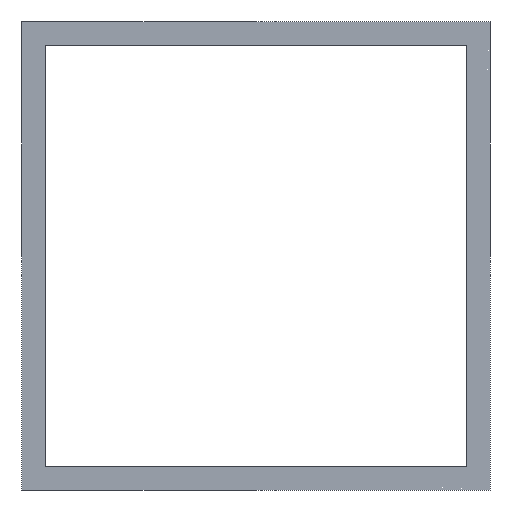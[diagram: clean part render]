
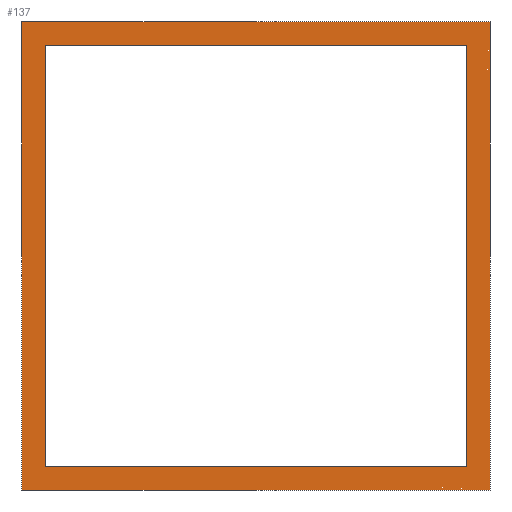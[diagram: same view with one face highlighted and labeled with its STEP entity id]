
A CAD part, front view. The second image highlights one B-rep face of the part: STEP entity #137.
In plain terms, the highlighted planar face has unit normal (0, -1, 0).
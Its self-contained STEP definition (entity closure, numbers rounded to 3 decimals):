
#21 = EDGE_CURVE('',#22,#24,#26,.T.);
#22 = VERTEX_POINT('',#23);
#23 = CARTESIAN_POINT('',(-100.,-680.,950.));
#24 = VERTEX_POINT('',#25);
#25 = CARTESIAN_POINT('',(-100.,-680.,1150.));
#26 = SURFACE_CURVE('',#27,(#31,#43),.PCURVE_S1.);
#27 = LINE('',#28,#29);
#28 = CARTESIAN_POINT('',(-100.,-680.,950.));
#29 = VECTOR('',#30,1.);
#30 = DIRECTION('',(0.,0.,1.));
#31 = PCURVE('',#32,#37);
#32 = PLANE('',#33);
#33 = AXIS2_PLACEMENT_3D('',#34,#35,#36);
#34 = CARTESIAN_POINT('',(-100.,-680.,950.));
#35 = DIRECTION('',(1.,0.,0.));
#36 = DIRECTION('',(0.,0.,1.));
#37 = DEFINITIONAL_REPRESENTATION('',(#38),#42);
#38 = LINE('',#39,#40);
#39 = CARTESIAN_POINT('',(0.,0.));
#40 = VECTOR('',#41,1.);
#41 = DIRECTION('',(1.,0.));
#42 = ( GEOMETRIC_REPRESENTATION_CONTEXT(2) 
PARAMETRIC_REPRESENTATION_CONTEXT() REPRESENTATION_CONTEXT('2D SPACE',''
  ) );
#43 = PCURVE('',#44,#49);
#44 = PLANE('',#45);
#45 = AXIS2_PLACEMENT_3D('',#46,#47,#48);
#46 = CARTESIAN_POINT('',(-100.,-680.,950.));
#47 = DIRECTION('',(0.,1.,0.));
#48 = DIRECTION('',(0.,0.,1.));
#49 = DEFINITIONAL_REPRESENTATION('',(#50),#54);
#50 = LINE('',#51,#52);
#51 = CARTESIAN_POINT('',(0.,0.));
#52 = VECTOR('',#53,1.);
#53 = DIRECTION('',(1.,0.));
#54 = ( GEOMETRIC_REPRESENTATION_CONTEXT(2) 
PARAMETRIC_REPRESENTATION_CONTEXT() REPRESENTATION_CONTEXT('2D SPACE',''
  ) );
#72 = PLANE('',#73);
#73 = AXIS2_PLACEMENT_3D('',#74,#75,#76);
#74 = CARTESIAN_POINT('',(-100.,-680.,950.));
#75 = DIRECTION('',(0.,0.,1.));
#76 = DIRECTION('',(1.,0.,0.));
#126 = PLANE('',#127);
#127 = AXIS2_PLACEMENT_3D('',#128,#129,#130);
#128 = CARTESIAN_POINT('',(-100.,-680.,1150.));
#129 = DIRECTION('',(0.,0.,1.));
#130 = DIRECTION('',(1.,0.,0.));
#137 = ADVANCED_FACE('',(#138,#213),#44,.F.);
#138 = FACE_BOUND('',#139,.F.);
#139 = EDGE_LOOP('',(#140,#163,#164,#187));
#140 = ORIENTED_EDGE('',*,*,#141,.F.);
#141 = EDGE_CURVE('',#22,#142,#144,.T.);
#142 = VERTEX_POINT('',#143);
#143 = CARTESIAN_POINT('',(100.,-680.,950.));
#144 = SURFACE_CURVE('',#145,(#149,#156),.PCURVE_S1.);
#145 = LINE('',#146,#147);
#146 = CARTESIAN_POINT('',(-100.,-680.,950.));
#147 = VECTOR('',#148,1.);
#148 = DIRECTION('',(1.,0.,0.));
#149 = PCURVE('',#44,#150);
#150 = DEFINITIONAL_REPRESENTATION('',(#151),#155);
#151 = LINE('',#152,#153);
#152 = CARTESIAN_POINT('',(0.,0.));
#153 = VECTOR('',#154,1.);
#154 = DIRECTION('',(0.,1.));
#155 = ( GEOMETRIC_REPRESENTATION_CONTEXT(2) 
PARAMETRIC_REPRESENTATION_CONTEXT() REPRESENTATION_CONTEXT('2D SPACE',''
  ) );
#156 = PCURVE('',#72,#157);
#157 = DEFINITIONAL_REPRESENTATION('',(#158),#162);
#158 = LINE('',#159,#160);
#159 = CARTESIAN_POINT('',(0.,0.));
#160 = VECTOR('',#161,1.);
#161 = DIRECTION('',(1.,0.));
#162 = ( GEOMETRIC_REPRESENTATION_CONTEXT(2) 
PARAMETRIC_REPRESENTATION_CONTEXT() REPRESENTATION_CONTEXT('2D SPACE',''
  ) );
#163 = ORIENTED_EDGE('',*,*,#21,.T.);
#164 = ORIENTED_EDGE('',*,*,#165,.T.);
#165 = EDGE_CURVE('',#24,#166,#168,.T.);
#166 = VERTEX_POINT('',#167);
#167 = CARTESIAN_POINT('',(100.,-680.,1150.));
#168 = SURFACE_CURVE('',#169,(#173,#180),.PCURVE_S1.);
#169 = LINE('',#170,#171);
#170 = CARTESIAN_POINT('',(-100.,-680.,1150.));
#171 = VECTOR('',#172,1.);
#172 = DIRECTION('',(1.,0.,0.));
#173 = PCURVE('',#44,#174);
#174 = DEFINITIONAL_REPRESENTATION('',(#175),#179);
#175 = LINE('',#176,#177);
#176 = CARTESIAN_POINT('',(200.,0.));
#177 = VECTOR('',#178,1.);
#178 = DIRECTION('',(0.,1.));
#179 = ( GEOMETRIC_REPRESENTATION_CONTEXT(2) 
PARAMETRIC_REPRESENTATION_CONTEXT() REPRESENTATION_CONTEXT('2D SPACE',''
  ) );
#180 = PCURVE('',#126,#181);
#181 = DEFINITIONAL_REPRESENTATION('',(#182),#186);
#182 = LINE('',#183,#184);
#183 = CARTESIAN_POINT('',(0.,0.));
#184 = VECTOR('',#185,1.);
#185 = DIRECTION('',(1.,0.));
#186 = ( GEOMETRIC_REPRESENTATION_CONTEXT(2) 
PARAMETRIC_REPRESENTATION_CONTEXT() REPRESENTATION_CONTEXT('2D SPACE',''
  ) );
#187 = ORIENTED_EDGE('',*,*,#188,.F.);
#188 = EDGE_CURVE('',#142,#166,#189,.T.);
#189 = SURFACE_CURVE('',#190,(#194,#201),.PCURVE_S1.);
#190 = LINE('',#191,#192);
#191 = CARTESIAN_POINT('',(100.,-680.,950.));
#192 = VECTOR('',#193,1.);
#193 = DIRECTION('',(0.,0.,1.));
#194 = PCURVE('',#44,#195);
#195 = DEFINITIONAL_REPRESENTATION('',(#196),#200);
#196 = LINE('',#197,#198);
#197 = CARTESIAN_POINT('',(0.,200.));
#198 = VECTOR('',#199,1.);
#199 = DIRECTION('',(1.,0.));
#200 = ( GEOMETRIC_REPRESENTATION_CONTEXT(2) 
PARAMETRIC_REPRESENTATION_CONTEXT() REPRESENTATION_CONTEXT('2D SPACE',''
  ) );
#201 = PCURVE('',#202,#207);
#202 = PLANE('',#203);
#203 = AXIS2_PLACEMENT_3D('',#204,#205,#206);
#204 = CARTESIAN_POINT('',(100.,-680.,950.));
#205 = DIRECTION('',(1.,0.,0.));
#206 = DIRECTION('',(0.,0.,1.));
#207 = DEFINITIONAL_REPRESENTATION('',(#208),#212);
#208 = LINE('',#209,#210);
#209 = CARTESIAN_POINT('',(0.,0.));
#210 = VECTOR('',#211,1.);
#211 = DIRECTION('',(1.,0.));
#212 = ( GEOMETRIC_REPRESENTATION_CONTEXT(2) 
PARAMETRIC_REPRESENTATION_CONTEXT() REPRESENTATION_CONTEXT('2D SPACE',''
  ) );
#213 = FACE_BOUND('',#214,.F.);
#214 = EDGE_LOOP('',(#215,#243,#269,#295));
#215 = ORIENTED_EDGE('',*,*,#216,.F.);
#216 = EDGE_CURVE('',#217,#219,#221,.T.);
#217 = VERTEX_POINT('',#218);
#218 = CARTESIAN_POINT('',(-90.,-680.,1140.));
#219 = VERTEX_POINT('',#220);
#220 = CARTESIAN_POINT('',(90.,-680.,1140.));
#221 = SURFACE_CURVE('',#222,(#226,#232),.PCURVE_S1.);
#222 = LINE('',#223,#224);
#223 = CARTESIAN_POINT('',(-95.,-680.,1140.));
#224 = VECTOR('',#225,1.);
#225 = DIRECTION('',(1.,0.,0.));
#226 = PCURVE('',#44,#227);
#227 = DEFINITIONAL_REPRESENTATION('',(#228),#231);
#228 = B_SPLINE_CURVE_WITH_KNOTS('',1,(#229,#230),.UNSPECIFIED.,.F.,.F.,
  (2,2),(5.,185.),.PIECEWISE_BEZIER_KNOTS.);
#229 = CARTESIAN_POINT('',(190.,10.));
#230 = CARTESIAN_POINT('',(190.,190.));
#231 = ( GEOMETRIC_REPRESENTATION_CONTEXT(2) 
PARAMETRIC_REPRESENTATION_CONTEXT() REPRESENTATION_CONTEXT('2D SPACE',''
  ) );
#232 = PCURVE('',#233,#238);
#233 = PLANE('',#234);
#234 = AXIS2_PLACEMENT_3D('',#235,#236,#237);
#235 = CARTESIAN_POINT('',(-90.,-681.,1140.));
#236 = DIRECTION('',(0.,0.,1.));
#237 = DIRECTION('',(1.,0.,0.));
#238 = DEFINITIONAL_REPRESENTATION('',(#239),#242);
#239 = B_SPLINE_CURVE_WITH_KNOTS('',1,(#240,#241),.UNSPECIFIED.,.F.,.F.,
  (2,2),(5.,185.),.PIECEWISE_BEZIER_KNOTS.);
#240 = CARTESIAN_POINT('',(0.,1.));
#241 = CARTESIAN_POINT('',(180.,1.));
#242 = ( GEOMETRIC_REPRESENTATION_CONTEXT(2) 
PARAMETRIC_REPRESENTATION_CONTEXT() REPRESENTATION_CONTEXT('2D SPACE',''
  ) );
#243 = ORIENTED_EDGE('',*,*,#244,.T.);
#244 = EDGE_CURVE('',#217,#245,#247,.T.);
#245 = VERTEX_POINT('',#246);
#246 = CARTESIAN_POINT('',(-90.,-680.,960.));
#247 = SURFACE_CURVE('',#248,(#252,#258),.PCURVE_S1.);
#248 = LINE('',#249,#250);
#249 = CARTESIAN_POINT('',(-90.,-680.,955.));
#250 = VECTOR('',#251,1.);
#251 = DIRECTION('',(0.,0.,-1.));
#252 = PCURVE('',#44,#253);
#253 = DEFINITIONAL_REPRESENTATION('',(#254),#257);
#254 = B_SPLINE_CURVE_WITH_KNOTS('',1,(#255,#256),.UNSPECIFIED.,.F.,.F.,
  (2,2),(-185.,-5.),.PIECEWISE_BEZIER_KNOTS.);
#255 = CARTESIAN_POINT('',(190.,10.));
#256 = CARTESIAN_POINT('',(10.,10.));
#257 = ( GEOMETRIC_REPRESENTATION_CONTEXT(2) 
PARAMETRIC_REPRESENTATION_CONTEXT() REPRESENTATION_CONTEXT('2D SPACE',''
  ) );
#258 = PCURVE('',#259,#264);
#259 = PLANE('',#260);
#260 = AXIS2_PLACEMENT_3D('',#261,#262,#263);
#261 = CARTESIAN_POINT('',(-90.,-681.,960.));
#262 = DIRECTION('',(1.,0.,0.));
#263 = DIRECTION('',(0.,0.,1.));
#264 = DEFINITIONAL_REPRESENTATION('',(#265),#268);
#265 = B_SPLINE_CURVE_WITH_KNOTS('',1,(#266,#267),.UNSPECIFIED.,.F.,.F.,
  (2,2),(-185.,-5.),.PIECEWISE_BEZIER_KNOTS.);
#266 = CARTESIAN_POINT('',(180.,-1.));
#267 = CARTESIAN_POINT('',(0.,-1.));
#268 = ( GEOMETRIC_REPRESENTATION_CONTEXT(2) 
PARAMETRIC_REPRESENTATION_CONTEXT() REPRESENTATION_CONTEXT('2D SPACE',''
  ) );
#269 = ORIENTED_EDGE('',*,*,#270,.T.);
#270 = EDGE_CURVE('',#245,#271,#273,.T.);
#271 = VERTEX_POINT('',#272);
#272 = CARTESIAN_POINT('',(90.,-680.,960.));
#273 = SURFACE_CURVE('',#274,(#278,#284),.PCURVE_S1.);
#274 = LINE('',#275,#276);
#275 = CARTESIAN_POINT('',(-95.,-680.,960.));
#276 = VECTOR('',#277,1.);
#277 = DIRECTION('',(1.,0.,0.));
#278 = PCURVE('',#44,#279);
#279 = DEFINITIONAL_REPRESENTATION('',(#280),#283);
#280 = B_SPLINE_CURVE_WITH_KNOTS('',1,(#281,#282),.UNSPECIFIED.,.F.,.F.,
  (2,2),(5.,185.),.PIECEWISE_BEZIER_KNOTS.);
#281 = CARTESIAN_POINT('',(10.,10.));
#282 = CARTESIAN_POINT('',(10.,190.));
#283 = ( GEOMETRIC_REPRESENTATION_CONTEXT(2) 
PARAMETRIC_REPRESENTATION_CONTEXT() REPRESENTATION_CONTEXT('2D SPACE',''
  ) );
#284 = PCURVE('',#285,#290);
#285 = PLANE('',#286);
#286 = AXIS2_PLACEMENT_3D('',#287,#288,#289);
#287 = CARTESIAN_POINT('',(-90.,-681.,960.));
#288 = DIRECTION('',(0.,0.,1.));
#289 = DIRECTION('',(1.,0.,0.));
#290 = DEFINITIONAL_REPRESENTATION('',(#291),#294);
#291 = B_SPLINE_CURVE_WITH_KNOTS('',1,(#292,#293),.UNSPECIFIED.,.F.,.F.,
  (2,2),(5.,185.),.PIECEWISE_BEZIER_KNOTS.);
#292 = CARTESIAN_POINT('',(0.,1.));
#293 = CARTESIAN_POINT('',(180.,1.));
#294 = ( GEOMETRIC_REPRESENTATION_CONTEXT(2) 
PARAMETRIC_REPRESENTATION_CONTEXT() REPRESENTATION_CONTEXT('2D SPACE',''
  ) );
#295 = ORIENTED_EDGE('',*,*,#296,.F.);
#296 = EDGE_CURVE('',#219,#271,#297,.T.);
#297 = SURFACE_CURVE('',#298,(#302,#308),.PCURVE_S1.);
#298 = LINE('',#299,#300);
#299 = CARTESIAN_POINT('',(90.,-680.,955.));
#300 = VECTOR('',#301,1.);
#301 = DIRECTION('',(0.,0.,-1.));
#302 = PCURVE('',#44,#303);
#303 = DEFINITIONAL_REPRESENTATION('',(#304),#307);
#304 = B_SPLINE_CURVE_WITH_KNOTS('',1,(#305,#306),.UNSPECIFIED.,.F.,.F.,
  (2,2),(-185.,-5.),.PIECEWISE_BEZIER_KNOTS.);
#305 = CARTESIAN_POINT('',(190.,190.));
#306 = CARTESIAN_POINT('',(10.,190.));
#307 = ( GEOMETRIC_REPRESENTATION_CONTEXT(2) 
PARAMETRIC_REPRESENTATION_CONTEXT() REPRESENTATION_CONTEXT('2D SPACE',''
  ) );
#308 = PCURVE('',#309,#314);
#309 = PLANE('',#310);
#310 = AXIS2_PLACEMENT_3D('',#311,#312,#313);
#311 = CARTESIAN_POINT('',(90.,-681.,960.));
#312 = DIRECTION('',(1.,0.,0.));
#313 = DIRECTION('',(0.,0.,1.));
#314 = DEFINITIONAL_REPRESENTATION('',(#315),#318);
#315 = B_SPLINE_CURVE_WITH_KNOTS('',1,(#316,#317),.UNSPECIFIED.,.F.,.F.,
  (2,2),(-185.,-5.),.PIECEWISE_BEZIER_KNOTS.);
#316 = CARTESIAN_POINT('',(180.,-1.));
#317 = CARTESIAN_POINT('',(0.,-1.));
#318 = ( GEOMETRIC_REPRESENTATION_CONTEXT(2) 
PARAMETRIC_REPRESENTATION_CONTEXT() REPRESENTATION_CONTEXT('2D SPACE',''
  ) );
